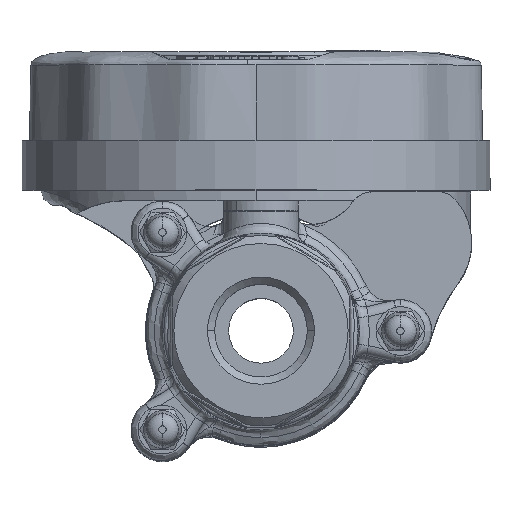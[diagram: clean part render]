
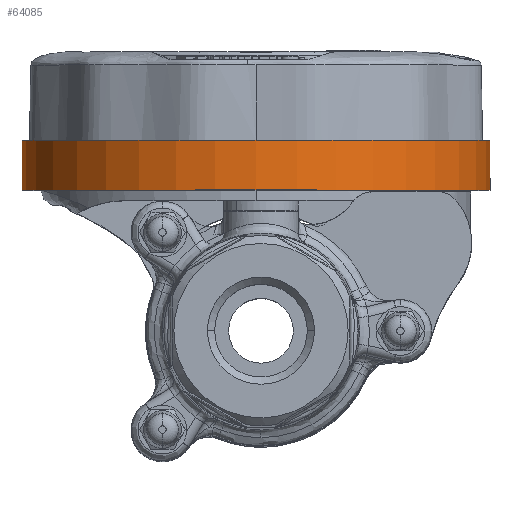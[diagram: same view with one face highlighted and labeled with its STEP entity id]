
A CAD part, top view. The second image highlights one B-rep face of the part: STEP entity #64085.
In plain terms, the highlighted cylindrical face has radius 47 mm (diameter 94 mm), a partial arc.
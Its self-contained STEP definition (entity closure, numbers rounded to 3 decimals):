
#6322 = VERTEX_POINT ( 'NONE', #8020 ) ;
#8020 = CARTESIAN_POINT ( 'NONE',  ( 46., 28.3, 9.1 ) ) ;
#9281 = AXIS2_PLACEMENT_3D ( 'NONE', #21245, #21229, #21158 ) ;
#10611 = EDGE_CURVE ( 'NONE', #36336, #6322, #23313, .T. ) ;
#16886 = EDGE_CURVE ( 'NONE', #6322, #71818, #56498, .T. ) ;
#17892 = CARTESIAN_POINT ( 'NONE',  ( -48., 28.3, 9.1 ) ) ;
#20074 = DIRECTION ( 'NONE',  ( -1., 0., 0. ) ) ;
#20231 = DIRECTION ( 'NONE',  ( 0., -1., 0. ) ) ;
#20322 = CARTESIAN_POINT ( 'NONE',  ( -1., 38.3, 9.1 ) ) ;
#21054 = ORIENTED_EDGE ( 'NONE', *, *, #33473, .T. ) ;
#21158 = DIRECTION ( 'NONE',  ( -1., 0., 0. ) ) ;
#21178 = ORIENTED_EDGE ( 'NONE', *, *, #29689, .T. ) ;
#21229 = DIRECTION ( 'NONE',  ( 0., -1., 0. ) ) ;
#21245 = CARTESIAN_POINT ( 'NONE',  ( -1., 28.3, 9.1 ) ) ;
#23313 = LINE ( 'NONE', #65150, #69024 ) ;
#25291 = CARTESIAN_POINT ( 'NONE',  ( -1., 38.3, 9.1 ) ) ;
#29689 = EDGE_CURVE ( 'NONE', #36336, #64866, #60345, .T. ) ;
#31271 = CARTESIAN_POINT ( 'NONE',  ( 46., 38.3, 9.1 ) ) ;
#31475 = VECTOR ( 'NONE', #62287, 1000. ) ;
#33473 = EDGE_CURVE ( 'NONE', #64866, #71818, #57295, .T. ) ;
#36336 = VERTEX_POINT ( 'NONE', #31271 ) ;
#37406 = CYLINDRICAL_SURFACE ( 'NONE', #68042, 47. ) ;
#38763 = EDGE_LOOP ( 'NONE', ( #49054, #21178, #21054, #48397 ) ) ;
#41823 = DIRECTION ( 'NONE',  ( 0., -1., 0. ) ) ;
#43799 = AXIS2_PLACEMENT_3D ( 'NONE', #20322, #20231, #20074 ) ;
#48397 = ORIENTED_EDGE ( 'NONE', *, *, #16886, .F. ) ;
#49054 = ORIENTED_EDGE ( 'NONE', *, *, #10611, .F. ) ;
#56157 = CARTESIAN_POINT ( 'NONE',  ( -48., 38.3, 9.1 ) ) ;
#56498 = CIRCLE ( 'NONE', #9281, 47. ) ;
#57130 = FACE_OUTER_BOUND ( 'NONE', #38763, .T. ) ;
#57295 = LINE ( 'NONE', #63107, #31475 ) ;
#60345 = CIRCLE ( 'NONE', #43799, 47. ) ;
#62287 = DIRECTION ( 'NONE',  ( 0., -1., 0. ) ) ;
#63107 = CARTESIAN_POINT ( 'NONE',  ( -48., 38.3, 9.1 ) ) ;
#63844 = DIRECTION ( 'NONE',  ( -1., 0., 0. ) ) ;
#64085 = ADVANCED_FACE ( 'NONE', ( #57130 ), #37406, .T. ) ;
#64866 = VERTEX_POINT ( 'NONE', #56157 ) ;
#65150 = CARTESIAN_POINT ( 'NONE',  ( 46., 38.3, 9.1 ) ) ;
#65386 = DIRECTION ( 'NONE',  ( 0., -1., 0. ) ) ;
#68042 = AXIS2_PLACEMENT_3D ( 'NONE', #25291, #41823, #63844 ) ;
#69024 = VECTOR ( 'NONE', #65386, 1000. ) ;
#71818 = VERTEX_POINT ( 'NONE', #17892 ) ;
